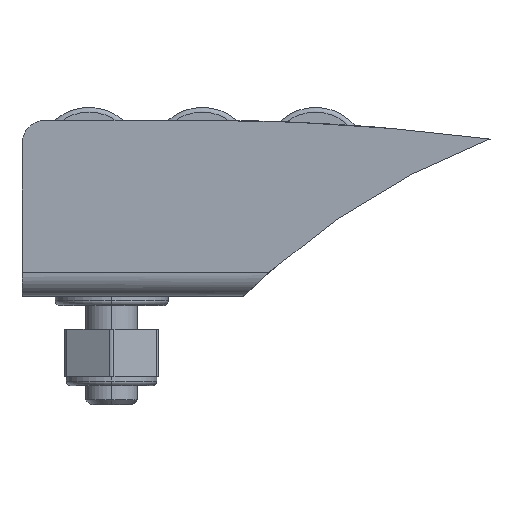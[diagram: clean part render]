
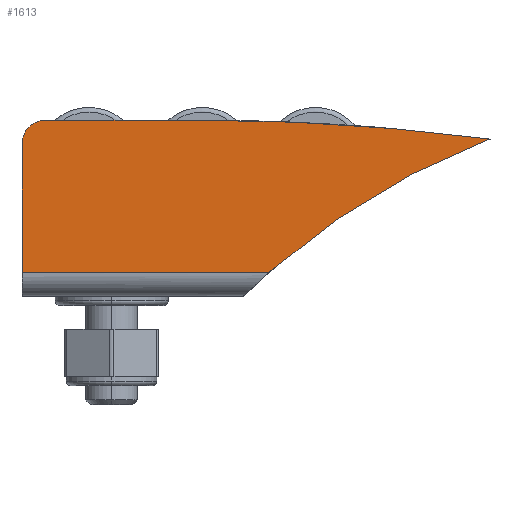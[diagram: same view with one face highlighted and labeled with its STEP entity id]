
A CAD part, left-side view. The second image highlights one B-rep face of the part: STEP entity #1613.
In plain terms, the highlighted planar face has unit normal (-1, 0, 0).
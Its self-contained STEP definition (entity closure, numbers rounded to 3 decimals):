
#1480=CARTESIAN_POINT('Vertex',(-42.5,30.95,-6.15)) ;
#1505=CARTESIAN_POINT('Vertex',(-42.5,4.773,-6.15)) ;
#1508=CARTESIAN_POINT('Line Origine',(-42.5,6.15,-6.15)) ;
#1567=CARTESIAN_POINT('Axis2P3D Location',(-42.5,0.,0.)) ;
#1572=CARTESIAN_POINT('Axis2P3D Location',(-42.5,28.45,7.5)) ;
#1576=CARTESIAN_POINT('Vertex',(-42.5,30.95,7.5)) ;
#1578=CARTESIAN_POINT('Vertex',(-42.5,28.45,10.)) ;
#1581=CARTESIAN_POINT('Line Origine',(-42.5,30.95,0.675)) ;
#1586=CARTESIAN_POINT('Axis2P3D Location',(-42.5,-45.068,-62.193)) ;
#1590=CARTESIAN_POINT('Vertex',(-42.5,-18.65,8.)) ;
#1593=CARTESIAN_POINT('Axis2P3D Location',(-42.5,12.35,-231.25)) ;
#1597=CARTESIAN_POINT('Vertex',(-42.5,12.35,10.)) ;
#1600=CARTESIAN_POINT('Line Origine',(-42.5,20.4,10.)) ;
#1509=DIRECTION('Vector Direction',(0.,-1.,0.)) ;
#1568=DIRECTION('Axis2P3D Direction',(1.,0.,0.)) ;
#1569=DIRECTION('Axis2P3D XDirection',(0.,1.,0.)) ;
#1573=DIRECTION('Axis2P3D Direction',(1.,0.,0.)) ;
#1582=DIRECTION('Vector Direction',(0.,0.,-1.)) ;
#1587=DIRECTION('Axis2P3D Direction',(1.,0.,0.)) ;
#1594=DIRECTION('Axis2P3D Direction',(1.,0.,0.)) ;
#1601=DIRECTION('Vector Direction',(0.,1.,0.)) ;
#1570=AXIS2_PLACEMENT_3D('Plane Axis2P3D',#1567,#1568,#1569) ;
#1574=AXIS2_PLACEMENT_3D('Circle Axis2P3D',#1572,#1573,$) ;
#1588=AXIS2_PLACEMENT_3D('Circle Axis2P3D',#1586,#1587,$) ;
#1595=AXIS2_PLACEMENT_3D('Circle Axis2P3D',#1593,#1594,$) ;
#1606=ORIENTED_EDGE('',*,*,#1580,.F.) ;
#1607=ORIENTED_EDGE('',*,*,#1585,.F.) ;
#1608=ORIENTED_EDGE('',*,*,#1512,.F.) ;
#1609=ORIENTED_EDGE('',*,*,#1592,.T.) ;
#1610=ORIENTED_EDGE('',*,*,#1599,.F.) ;
#1611=ORIENTED_EDGE('',*,*,#1604,.F.) ;
#1510=VECTOR('Line Direction',#1509,1.) ;
#1583=VECTOR('Line Direction',#1582,1.) ;
#1602=VECTOR('Line Direction',#1601,1.) ;
#1613=ADVANCED_FACE('PartBody',(#1612),#1571,.F.) ;
#1575=CIRCLE('generated circle',#1574,2.5) ;
#1589=CIRCLE('generated circle',#1588,75.) ;
#1596=CIRCLE('generated circle',#1595,241.25) ;
#1512=EDGE_CURVE('',#1506,#1481,#1511,.F.) ;
#1580=EDGE_CURVE('',#1577,#1579,#1575,.T.) ;
#1585=EDGE_CURVE('',#1481,#1577,#1584,.F.) ;
#1592=EDGE_CURVE('',#1506,#1591,#1589,.T.) ;
#1599=EDGE_CURVE('',#1598,#1591,#1596,.T.) ;
#1604=EDGE_CURVE('',#1579,#1598,#1603,.F.) ;
#1605=EDGE_LOOP('',(#1606,#1607,#1608,#1609,#1610,#1611)) ;
#1612=FACE_OUTER_BOUND('',#1605,.T.) ;
#1511=LINE('Line',#1508,#1510) ;
#1584=LINE('Line',#1581,#1583) ;
#1603=LINE('Line',#1600,#1602) ;
#1571=PLANE('',#1570) ;
#1481=VERTEX_POINT('',#1480) ;
#1506=VERTEX_POINT('',#1505) ;
#1577=VERTEX_POINT('',#1576) ;
#1579=VERTEX_POINT('',#1578) ;
#1591=VERTEX_POINT('',#1590) ;
#1598=VERTEX_POINT('',#1597) ;
